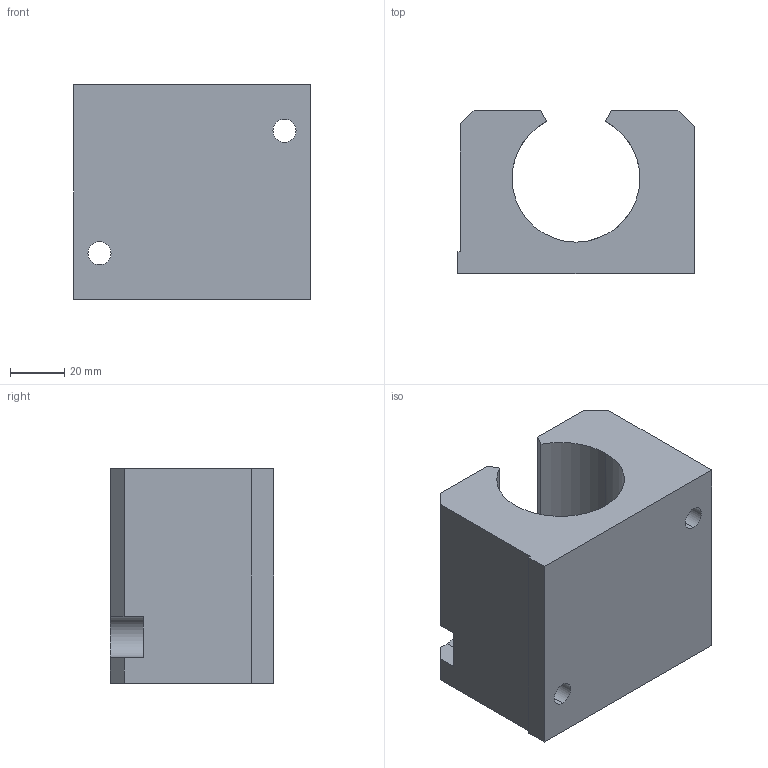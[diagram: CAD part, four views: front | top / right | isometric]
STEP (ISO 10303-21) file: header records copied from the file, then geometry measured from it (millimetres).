
FILE_DESCRIPTION (( 'STEP AP214' ), '1' );
FILE_NAME ('KGO37-30.step', '2020-03-04T13:21:38', ( '' ), ( '' ), 'SwSTEP 2.0', 'SolidWorks 2019', '' );
FILE_SCHEMA (( 'AUTOMOTIVE_DESIGN' ));
Length unit declared in the file: millimetre
Products named in the file (1): KGO37-30
Bounding box: 87 x 60 x 79 mm (x, y, z)
Volume: 252194.9 mm3; surface area: 41877.4 mm2
Topology: 1 solids, 1 shells, 41 faces, 113 edges, 74 vertices
Faces by surface type: plane 22, cylinder 17, cone 2
Entity records: 1541 total; most frequent: CARTESIAN_POINT 339, ORIENTED_EDGE 226, DIRECTION 221, EDGE_CURVE 113, LINE 77, VECTOR 77, VERTEX_POINT 74, AXIS2_PLACEMENT_3D 72
